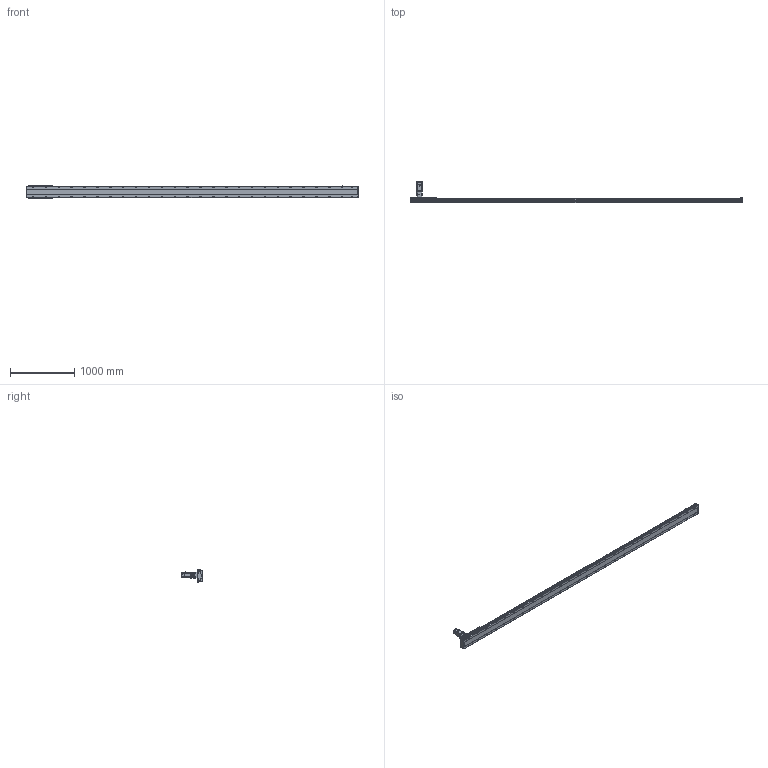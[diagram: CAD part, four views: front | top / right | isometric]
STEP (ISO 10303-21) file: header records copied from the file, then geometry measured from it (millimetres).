
FILE_DESCRIPTION(/* description */ ('STEP AP203'),/* implementation_level */ '2;1');
FILE_NAME(/* name */ 'SHS17A-L13-S4700-BC-T75-C1-N(0)',/* time_stamp */ '2023-03-27T08:59:18+02:00',/* author */ ('License CC BY-ND 4.0'),/* organization */ ('CADENAS'),/* preprocessor_version */ 'ST-DEVELOPER v19.3',/* originating_system */ 'PARTsolutions',/* authorisation */ ' ');
FILE_SCHEMA (('CONFIG_CONTROL_DESIGN'));
Length unit declared in the file: millimetre
Products named in the file (7): SHS17A-L13-S4700-BC-T75-C1-N(0); PSC140-sensor; SHS17A-S4700(0)_body2; T75-p1; SHS17A-S4700_body3; SHS17A-S4700-C1(0)_slider; SHS17A-S4700-C1(0)_body
Assembly tree (13 placements, depth 2):
  SHS17A-L13-S4700-BC-T75-C1-N(0)
    PSC140-sensor  x3
    SHS17A-S4700(0)_body2  x6
    T75-p1
    SHS17A-S4700_body3
    SHS17A-S4700-C1(0)_slider
    SHS17A-S4700-C1(0)_body
Bounding box: 5154 x 333.8 x 193.4 mm (x, y, z)
Volume: 34673942.6 mm3; surface area: 3956338 mm2
Topology: 13 solids, 13 shells, 2488 faces, 6361 edges, 4140 vertices
Faces by surface type: plane 1507, cylinder 872, cone 106, torus 3
Full cylindrical faces by diameter (mm): 2.8 x3, 4.134 x24, 4.5 x2, 4.6 x3, 4.917 x15, 5.5 x48, 6 x7, 6.5 x24, 6.647 x60, 6.8 x9, 8 x3, 8.5 x52, 10 x28, 11 x4, 14 x52, 22 x1, 24 x1, 24.2 x1, 28 x1, 28.2 x1, 28.8 x1, 29.8 x1, 48.542 x1, 68 x1, 70 x1, 78 x1, 80 x2
Entity records: 51640 total; most frequent: CARTESIAN_POINT 10468, DIRECTION 8323, ORIENTED_EDGE 8092, EDGE_CURVE 4046, AXIS2_PLACEMENT_3D 2990, VERTEX_POINT 2851, EDGE_LOOP 2423, FACE_BOUND 2423
